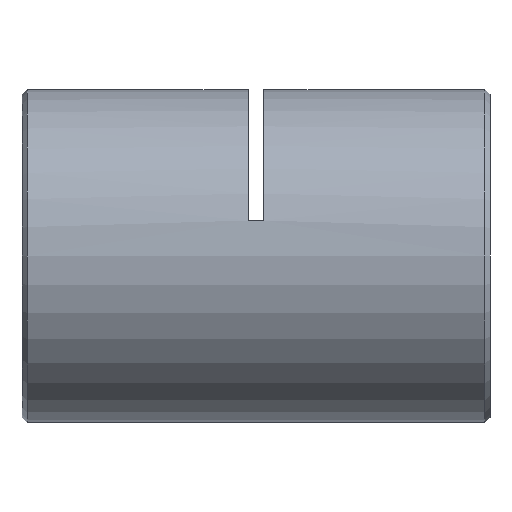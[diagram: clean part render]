
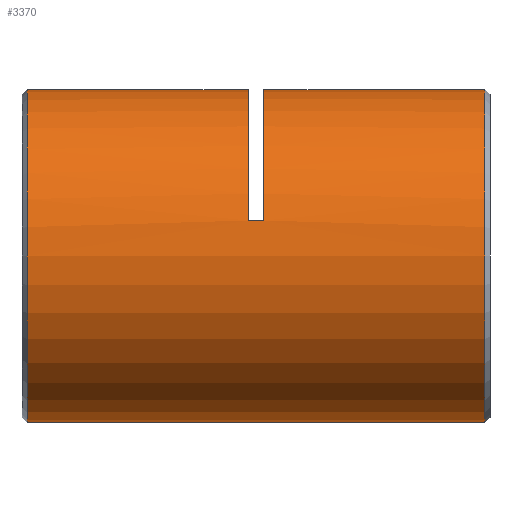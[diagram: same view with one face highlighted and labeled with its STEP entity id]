
A CAD part, left-side view. The second image highlights one B-rep face of the part: STEP entity #3370.
In plain terms, the highlighted cylindrical face has radius 16 mm (diameter 32 mm), a partial arc.
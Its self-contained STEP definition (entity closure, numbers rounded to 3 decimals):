
#27 = CARTESIAN_POINT ( 'NONE',  ( 0., 22., 0. ) ) ;
#120 = CARTESIAN_POINT ( 'NONE',  ( 0., 22., 16. ) ) ;
#236 = VERTEX_POINT ( 'NONE', #669 ) ;
#332 = CARTESIAN_POINT ( 'NONE',  ( -15.632, 22.75, 3.413 ) ) ;
#356 = EDGE_CURVE ( 'NONE', #5706, #5179, #3630, .T. ) ;
#405 = AXIS2_PLACEMENT_3D ( 'NONE', #3439, #955, #5861 ) ;
#407 = EDGE_CURVE ( 'NONE', #5706, #1623, #4002, .T. ) ;
#417 = DIRECTION ( 'NONE',  ( 0., 0., -1. ) ) ;
#472 = DIRECTION ( 'NONE',  ( 0., -1., 0. ) ) ;
#475 = CARTESIAN_POINT ( 'NONE',  ( 0., 44.75, 16. ) ) ;
#502 = DIRECTION ( 'NONE',  ( 0., 1., 0. ) ) ;
#669 = CARTESIAN_POINT ( 'NONE',  ( 0., 0.75, 16. ) ) ;
#782 = VERTEX_POINT ( 'NONE', #3265 ) ;
#943 = CARTESIAN_POINT ( 'NONE',  ( 0., 0., 0. ) ) ;
#955 = DIRECTION ( 'NONE',  ( 0., 1., 0. ) ) ;
#961 = CARTESIAN_POINT ( 'NONE',  ( -15.632, 23.5, 3.413 ) ) ;
#1049 = EDGE_CURVE ( 'NONE', #3009, #4139, #1760, .T. ) ;
#1060 = FACE_OUTER_BOUND ( 'NONE', #4152, .T. ) ;
#1312 = AXIS2_PLACEMENT_3D ( 'NONE', #27, #1973, #1408 ) ;
#1332 = ORIENTED_EDGE ( 'NONE', *, *, #3531, .T. ) ;
#1408 = DIRECTION ( 'NONE',  ( 0., 0., 1. ) ) ;
#1475 = CIRCLE ( 'NONE', #3777, 16. ) ;
#1623 = VERTEX_POINT ( 'NONE', #120 ) ;
#1760 = LINE ( 'NONE', #3665, #4745 ) ;
#1973 = DIRECTION ( 'NONE',  ( 0., 1., 0. ) ) ;
#1979 = DIRECTION ( 'NONE',  ( 0., 1., 0. ) ) ;
#2236 = ORIENTED_EDGE ( 'NONE', *, *, #4939, .T. ) ;
#2264 = ORIENTED_EDGE ( 'NONE', *, *, #5473, .T. ) ;
#2265 = ORIENTED_EDGE ( 'NONE', *, *, #356, .T. ) ;
#2342 = DIRECTION ( 'NONE',  ( 0., 1., 0. ) ) ;
#2830 = ORIENTED_EDGE ( 'NONE', *, *, #5530, .F. ) ;
#2877 = LINE ( 'NONE', #3823, #5621 ) ;
#2892 = LINE ( 'NONE', #3361, #5809 ) ;
#3009 = VERTEX_POINT ( 'NONE', #3150 ) ;
#3121 = CARTESIAN_POINT ( 'NONE',  ( -15.632, 22., 3.413 ) ) ;
#3150 = CARTESIAN_POINT ( 'NONE',  ( 0., 23.5, 16. ) ) ;
#3209 = CARTESIAN_POINT ( 'NONE',  ( 0., 23.5, 0. ) ) ;
#3265 = CARTESIAN_POINT ( 'NONE',  ( 0., 0.75, -16. ) ) ;
#3312 = ORIENTED_EDGE ( 'NONE', *, *, #407, .F. ) ;
#3361 = CARTESIAN_POINT ( 'NONE',  ( 0., 0., 16. ) ) ;
#3370 = ADVANCED_FACE ( 'NONE', ( #1060 ), #4751, .T. ) ;
#3439 = CARTESIAN_POINT ( 'NONE',  ( 0., 0.75, 0. ) ) ;
#3531 = EDGE_CURVE ( 'NONE', #236, #1623, #2892, .T. ) ;
#3630 = LINE ( 'NONE', #332, #4983 ) ;
#3665 = CARTESIAN_POINT ( 'NONE',  ( 0., 0., 16. ) ) ;
#3732 = DIRECTION ( 'NONE',  ( 0., 1., 0. ) ) ;
#3777 = AXIS2_PLACEMENT_3D ( 'NONE', #3209, #4272, #5618 ) ;
#3823 = CARTESIAN_POINT ( 'NONE',  ( 0., 0., -16. ) ) ;
#3984 = AXIS2_PLACEMENT_3D ( 'NONE', #4287, #472, #417 ) ;
#4002 = CIRCLE ( 'NONE', #1312, 16. ) ;
#4094 = VERTEX_POINT ( 'NONE', #5685 ) ;
#4139 = VERTEX_POINT ( 'NONE', #475 ) ;
#4152 = EDGE_LOOP ( 'NONE', ( #2830, #2264, #1332, #3312, #2265, #2236, #4947, #4509 ) ) ;
#4250 = DIRECTION ( 'NONE',  ( 0., 0., 1. ) ) ;
#4272 = DIRECTION ( 'NONE',  ( 0., 1., 0. ) ) ;
#4287 = CARTESIAN_POINT ( 'NONE',  ( 0., 44.75, 0. ) ) ;
#4509 = ORIENTED_EDGE ( 'NONE', *, *, #5722, .T. ) ;
#4745 = VECTOR ( 'NONE', #3732, 1000. ) ;
#4751 = CYLINDRICAL_SURFACE ( 'NONE', #6012, 16. ) ;
#4939 = EDGE_CURVE ( 'NONE', #5179, #3009, #1475, .T. ) ;
#4947 = ORIENTED_EDGE ( 'NONE', *, *, #1049, .T. ) ;
#4983 = VECTOR ( 'NONE', #6152, 1000. ) ;
#5179 = VERTEX_POINT ( 'NONE', #961 ) ;
#5473 = EDGE_CURVE ( 'NONE', #782, #236, #5824, .T. ) ;
#5530 = EDGE_CURVE ( 'NONE', #782, #4094, #2877, .T. ) ;
#5618 = DIRECTION ( 'NONE',  ( 0., 0., 1. ) ) ;
#5621 = VECTOR ( 'NONE', #1979, 1000. ) ;
#5685 = CARTESIAN_POINT ( 'NONE',  ( 0., 44.75, -16. ) ) ;
#5706 = VERTEX_POINT ( 'NONE', #3121 ) ;
#5722 = EDGE_CURVE ( 'NONE', #4139, #4094, #6030, .T. ) ;
#5809 = VECTOR ( 'NONE', #502, 1000. ) ;
#5824 = CIRCLE ( 'NONE', #405, 16. ) ;
#5861 = DIRECTION ( 'NONE',  ( 0., 0., 1. ) ) ;
#6012 = AXIS2_PLACEMENT_3D ( 'NONE', #943, #2342, #4250 ) ;
#6030 = CIRCLE ( 'NONE', #3984, 16. ) ;
#6152 = DIRECTION ( 'NONE',  ( 0., 1., 0. ) ) ;
